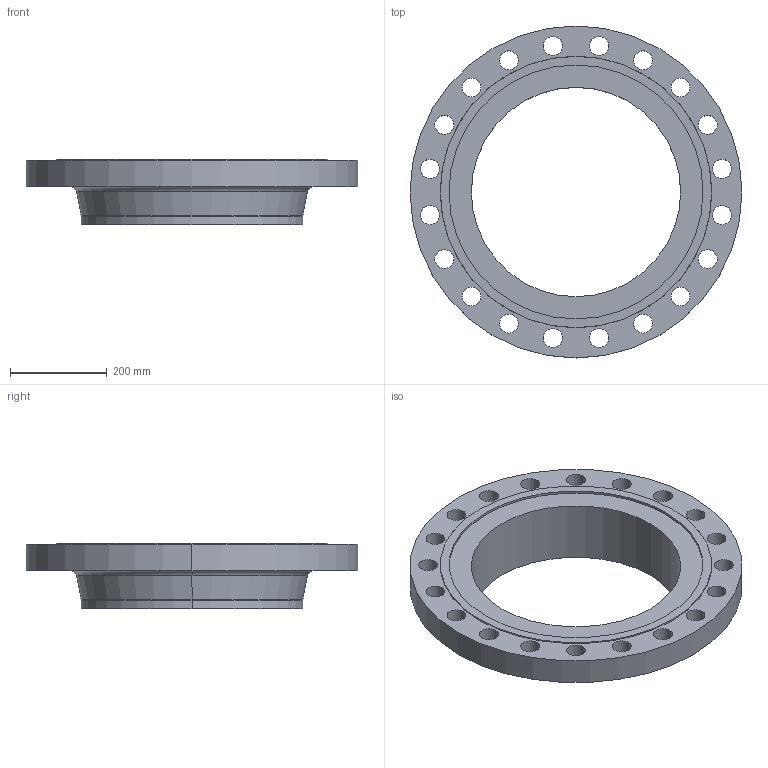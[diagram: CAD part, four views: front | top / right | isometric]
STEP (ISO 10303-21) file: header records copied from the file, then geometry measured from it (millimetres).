
FILE_DESCRIPTION (( 'STEP AP214' ), '1' );
FILE_NAME ('PN40 DN450 Type 11 - Type F Face.STEP', '2018-12-29T04:55:25', ( '' ), ( '' ), 'SwSTEP 2.0', 'SolidWorks 2019', '' );
FILE_SCHEMA (( 'AUTOMOTIVE_DESIGN' ));
Length unit declared in the file: millimetre
Products named in the file (1): PN40 DN450 Type 11 - Type F Face
Bounding box: 685 x 685 x 135 mm (x, y, z)
Volume: 12641241.6 mm3; surface area: 930745.2 mm2
Topology: 1 solids, 1 shells, 61 faces, 162 edges, 106 vertices
Faces by surface type: cylinder 48, plane 5, torus 4, cone 4
Entity records: 2076 total; most frequent: DIRECTION 396, CARTESIAN_POINT 330, ORIENTED_EDGE 324, AXIS2_PLACEMENT_3D 172, EDGE_CURVE 162, CIRCLE 110, EDGE_LOOP 106, VERTEX_POINT 106
